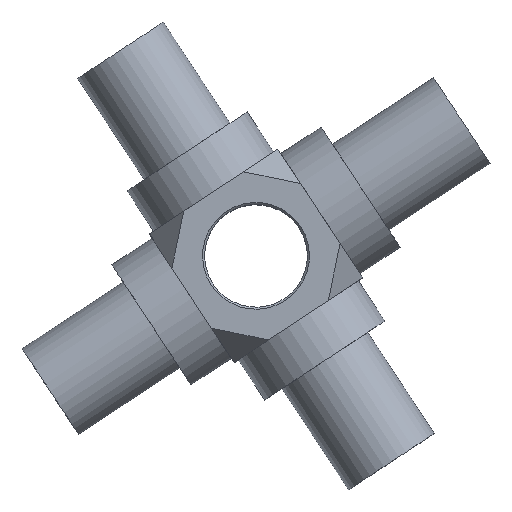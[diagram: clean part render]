
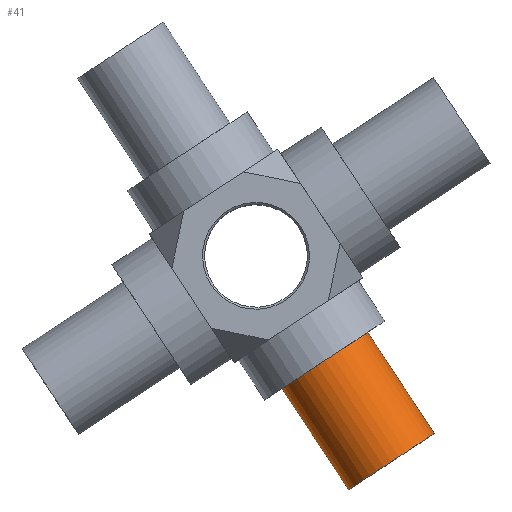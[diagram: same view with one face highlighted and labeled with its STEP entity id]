
A CAD part, top view. The second image highlights one B-rep face of the part: STEP entity #41.
In plain terms, the highlighted cylindrical face has radius 2.5 mm (diameter 5 mm), a partial arc.
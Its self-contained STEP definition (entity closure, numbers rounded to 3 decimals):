
#41 = ADVANCED_FACE ( 'NONE', ( #118 ), #1002, .T. ) ;
#68 = DIRECTION ( 'NONE',  ( 0.55, -0.835, 0. ) ) ;
#85 = CARTESIAN_POINT ( 'NONE',  ( 3.454, -5.095, -866.044 ) ) ;
#106 = AXIS2_PLACEMENT_3D ( 'NONE', #351, #749, #941 ) ;
#118 = FACE_OUTER_BOUND ( 'NONE', #186, .T. ) ;
#121 = DIRECTION ( 'NONE',  ( 0.55, -0.835, 0. ) ) ;
#186 = EDGE_LOOP ( 'NONE', ( #826, #678, #771, #874 ) ) ;
#270 = CIRCLE ( 'NONE', #520, 2.5 ) ;
#344 = CARTESIAN_POINT ( 'NONE',  ( 5.542, -3.721, -866.044 ) ) ;
#351 = CARTESIAN_POINT ( 'NONE',  ( 7.067, -10.584, -866.044 ) ) ;
#375 = VERTEX_POINT ( 'NONE', #1122 ) ;
#397 = VECTOR ( 'NONE', #121, 1000. ) ;
#424 = CARTESIAN_POINT ( 'NONE',  ( 1.366, -6.47, -866.044 ) ) ;
#480 = CARTESIAN_POINT ( 'NONE',  ( 6.698, -10.023, -866.044 ) ) ;
#516 = CARTESIAN_POINT ( 'NONE',  ( 8.786, -8.649, -866.044 ) ) ;
#520 = AXIS2_PLACEMENT_3D ( 'NONE', #85, #68, #857 ) ;
#574 = DIRECTION ( 'NONE',  ( -0.835, -0.55, 0. ) ) ;
#655 = DIRECTION ( 'NONE',  ( 0.55, -0.835, 0. ) ) ;
#660 = DIRECTION ( 'NONE',  ( 0.55, -0.835, 0. ) ) ;
#678 = ORIENTED_EDGE ( 'NONE', *, *, #838, .T. ) ;
#742 = CARTESIAN_POINT ( 'NONE',  ( 4.979, -11.959, -866.044 ) ) ;
#747 = AXIS2_PLACEMENT_3D ( 'NONE', #480, #660, #574 ) ;
#749 = DIRECTION ( 'NONE',  ( 0.55, -0.835, 0. ) ) ;
#771 = ORIENTED_EDGE ( 'NONE', *, *, #831, .T. ) ;
#782 = VERTEX_POINT ( 'NONE', #424 ) ;
#826 = ORIENTED_EDGE ( 'NONE', *, *, #917, .F. ) ;
#831 = EDGE_CURVE ( 'NONE', #782, #375, #1010, .T. ) ;
#838 = EDGE_CURVE ( 'NONE', #1271, #782, #270, .T. ) ;
#857 = DIRECTION ( 'NONE',  ( -0.835, -0.55, 0. ) ) ;
#868 = LINE ( 'NONE', #875, #933 ) ;
#874 = ORIENTED_EDGE ( 'NONE', *, *, #905, .F. ) ;
#875 = CARTESIAN_POINT ( 'NONE',  ( 9.156, -9.21, -866.044 ) ) ;
#905 = EDGE_CURVE ( 'NONE', #1120, #375, #1160, .T. ) ;
#917 = EDGE_CURVE ( 'NONE', #1271, #1120, #868, .T. ) ;
#933 = VECTOR ( 'NONE', #655, 1000. ) ;
#941 = DIRECTION ( 'NONE',  ( -0.835, -0.55, 0. ) ) ;
#1002 = CYLINDRICAL_SURFACE ( 'NONE', #106, 2.5 ) ;
#1010 = LINE ( 'NONE', #742, #397 ) ;
#1120 = VERTEX_POINT ( 'NONE', #516 ) ;
#1122 = CARTESIAN_POINT ( 'NONE',  ( 4.61, -11.398, -866.044 ) ) ;
#1160 = CIRCLE ( 'NONE', #747, 2.5 ) ;
#1271 = VERTEX_POINT ( 'NONE', #344 ) ;
